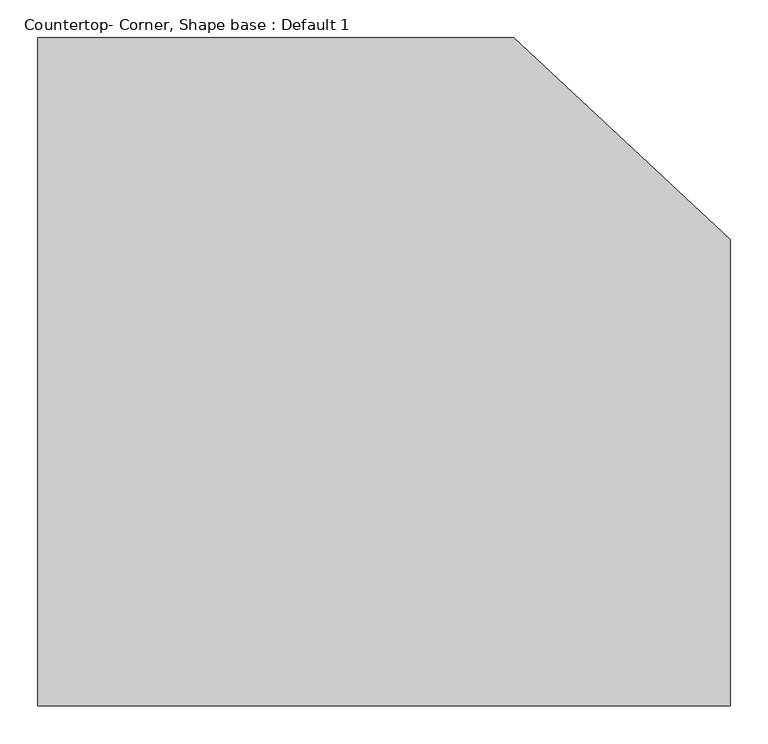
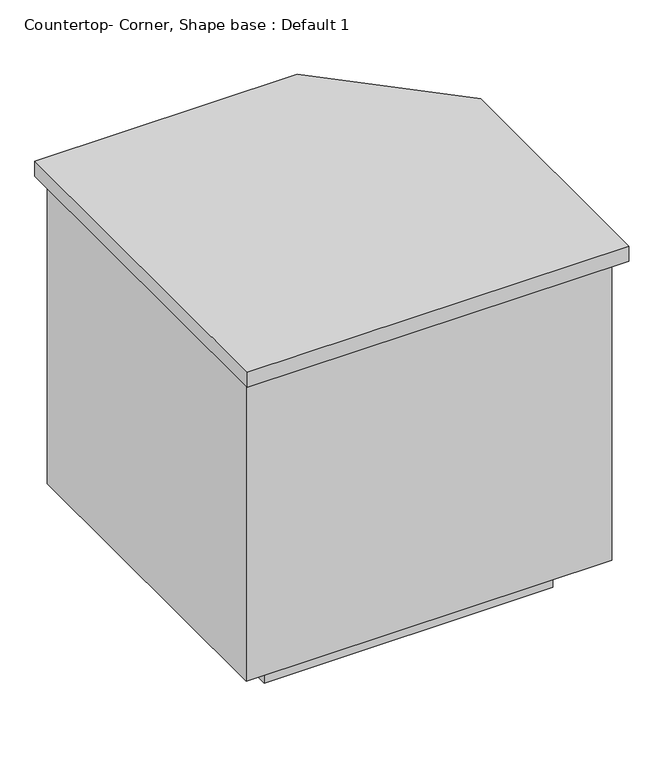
"""IFC4 building model written with IfcOpenShell, lengths in millimetres: proxy geometry, Countertop- Corner, Shape base : Default 1."""

from ifc_helpers import new_model, si_unit, frame, origin, origin_with_axes, place, context, project, spatial, polyline, outline, extrude, source, transform, mapped, element, save


def countertop_corner_shape_base_default_1_22158ea7(model_context):
    return source(origin(), model_context, "Body", "SweptSolid", [
        extrude(outline(polyline([(610.1, -19.05), (610.1, 863.6), (1238.75, 863.6), (1524.5, 596.9), (1524.5, -19.05), (610.1, -19.05)])), frame((0.0, 0.0, 876.3), z_axis=(0.0, 0.0, 1.0), x_axis=(1.0, 0.0, 0.0)), (0.0, 0.0, 1.0), 38.1),
        extrude(outline(polyline([(629.15, 844.55), (1219.7, 844.55), (1505.45, 577.85), (1505.45, 19.05), (629.15, 19.05), (629.15, 844.55)])), frame((0.0, 0.0, 101.6), z_axis=(0.0, 0.0, 1.0), x_axis=(1.0, 0.0, 0.0)), (0.0, 0.0, 1.0), 774.7),
        extrude(outline(polyline([(730.75, 742.95), (1143.3454163, 742.95), (1422.9, 476.25), (1422.9, 120.65), (730.75, 120.65), (730.75, 742.95)])), origin_with_axes(), (0.0, 0.0, 1.0), 101.6),
    ])


if __name__ == "__main__":
    model = new_model("IFC4")
    model_context = context("Model", 3, world=origin())
    ifc_project = project(units=[si_unit("LENGTHUNIT", "METRE", prefix="MILLI")], contexts=[model_context])
    site = spatial("IfcSite", under=ifc_project)
    building = spatial("IfcBuilding", under=site)
    placement = place(None, origin())
    countertop_corner_shape_base_default_1_shape = countertop_corner_shape_base_default_1_22158ea7(model_context)
    element("IfcBuildingElementProxy", 1, Name="Countertop- Corner, Shape base : Default 1", ObjectType="Countertop- Corner, Shape base : Default 1", at=placement, inside=building, context=model_context, shape_type="MappedRepresentation", body=[
        mapped(countertop_corner_shape_base_default_1_shape, transform((0.0, 0.0, 0.0), x_axis=(1.0, 0.0, 0.0), y_axis=(0.0, 1.0, 0.0), z_axis=(0.0, 0.0, 1.0))),
    ])
    save(model, "model.ifc")
